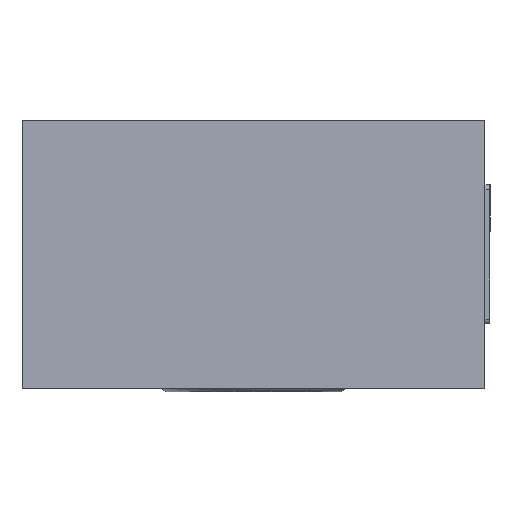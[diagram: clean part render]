
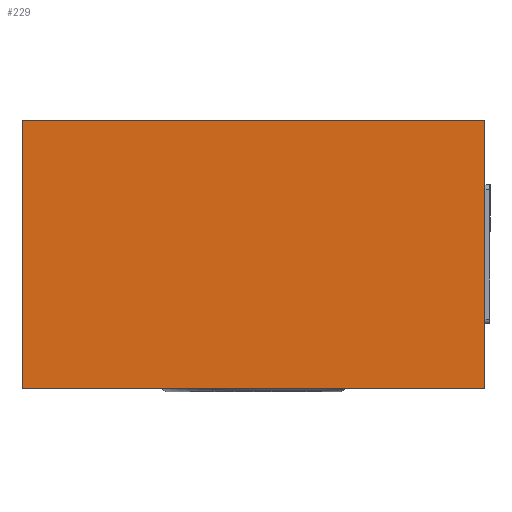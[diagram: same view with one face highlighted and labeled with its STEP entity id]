
A CAD part, left-side view. The second image highlights one B-rep face of the part: STEP entity #229.
In plain terms, the highlighted planar face has unit normal (-1, 0, 0).
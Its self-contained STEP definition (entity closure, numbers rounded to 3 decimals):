
#184=FACE_OUTER_BOUND('',#666,.T.);
#229=ADVANCED_FACE('',(#184),#336,.F.);
#336=PLANE('',#1610);
#382=LINE('',#2273,#453);
#385=LINE('',#2279,#456);
#386=LINE('',#2281,#457);
#387=LINE('',#2283,#458);
#453=VECTOR('',#1809,1.);
#456=VECTOR('',#1814,1.);
#457=VECTOR('',#1815,1.);
#458=VECTOR('',#1816,1.);
#666=EDGE_LOOP('',(#848,#849,#850,#851));
#848=ORIENTED_EDGE('',*,*,#1349,.T.);
#849=ORIENTED_EDGE('',*,*,#1350,.F.);
#850=ORIENTED_EDGE('',*,*,#1351,.F.);
#851=ORIENTED_EDGE('',*,*,#1346,.T.);
#1203=VERTEX_POINT('',#2272);
#1204=VERTEX_POINT('',#2274);
#1206=VERTEX_POINT('',#2280);
#1207=VERTEX_POINT('',#2282);
#1346=EDGE_CURVE('',#1204,#1203,#382,.T.);
#1349=EDGE_CURVE('',#1203,#1206,#385,.T.);
#1350=EDGE_CURVE('',#1207,#1206,#386,.T.);
#1351=EDGE_CURVE('',#1204,#1207,#387,.T.);
#1610=AXIS2_PLACEMENT_3D('',#2284,#1817,#1818);
#1809=DIRECTION('',(0.,0.,1.));
#1814=DIRECTION('',(0.,1.,0.));
#1815=DIRECTION('',(0.,0.,1.));
#1816=DIRECTION('',(0.,1.,0.));
#1817=DIRECTION('',(1.,0.,0.));
#1818=DIRECTION('',(0.,0.,1.));
#2272=CARTESIAN_POINT('',(3665.124,244.179,58.));
#2273=CARTESIAN_POINT('',(3665.124,244.179,0.));
#2274=CARTESIAN_POINT('',(3665.124,244.179,0.));
#2279=CARTESIAN_POINT('',(3665.124,244.179,58.));
#2280=CARTESIAN_POINT('',(3665.124,344.179,58.));
#2281=CARTESIAN_POINT('',(3665.124,344.179,0.));
#2282=CARTESIAN_POINT('',(3665.124,344.179,0.));
#2283=CARTESIAN_POINT('',(3665.124,244.179,0.));
#2284=CARTESIAN_POINT('',(3665.124,244.179,0.));
